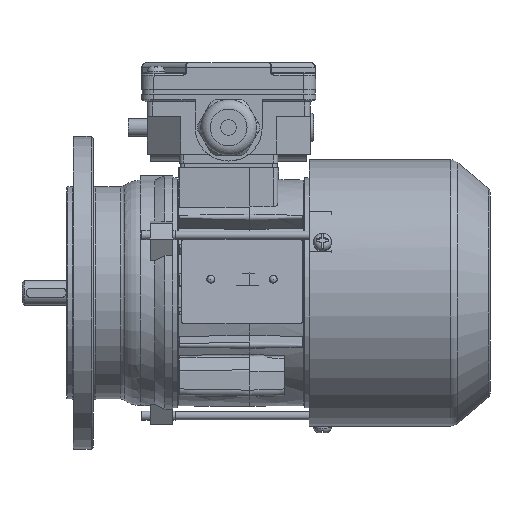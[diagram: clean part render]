
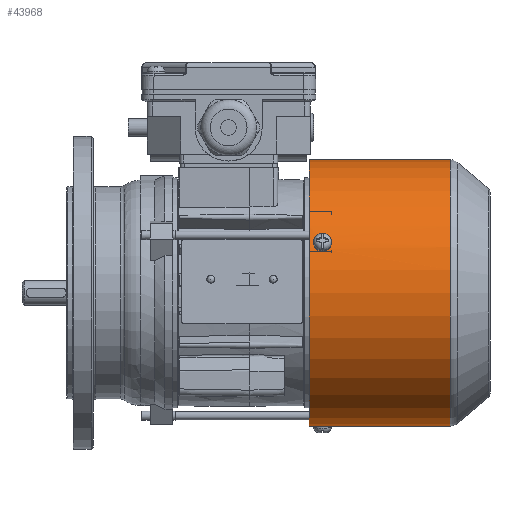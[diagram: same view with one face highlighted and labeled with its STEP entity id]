
A CAD part, front view. The second image highlights one B-rep face of the part: STEP entity #43968.
In plain terms, the highlighted cylindrical face has radius 59.6 mm (diameter 119.2 mm), a full revolution.
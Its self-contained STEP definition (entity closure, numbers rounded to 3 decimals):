
#663=B_SPLINE_CURVE_WITH_KNOTS('',3,(#58667,#58668,#58669,#58670,#58671,
#58672,#58673),.UNSPECIFIED.,.F.,.F.,(4,1,1,1,4),(0.,
0.002,0.004,0.006,0.007),
 .UNSPECIFIED.);
#664=B_SPLINE_CURVE_WITH_KNOTS('',3,(#58679,#58680,#58681,#58682,#58683,
#58684,#58685),.UNSPECIFIED.,.F.,.F.,(4,1,1,1,4),(0.,
0.002,0.004,0.006,0.007),
 .UNSPECIFIED.);
#665=B_SPLINE_CURVE_WITH_KNOTS('',3,(#58718,#58719,#58720,#58721,#58722,
#58723,#58724),.UNSPECIFIED.,.F.,.F.,(4,1,1,1,4),(0.,0.002,
0.004,0.006,0.008),
 .UNSPECIFIED.);
#666=B_SPLINE_CURVE_WITH_KNOTS('',3,(#58728,#58729,#58730,#58731,#58732,
#58733,#58734),.UNSPECIFIED.,.F.,.F.,(4,1,1,1,4),(0.,
0.002,0.004,0.006,0.008),
 .UNSPECIFIED.);
#667=B_SPLINE_CURVE_WITH_KNOTS('',3,(#58738,#58739,#58740,#58741,#58742,
#58743,#58744),.UNSPECIFIED.,.F.,.F.,(4,1,1,1,4),(0.,0.002,
0.004,0.006,0.008),
 .UNSPECIFIED.);
#668=B_SPLINE_CURVE_WITH_KNOTS('',3,(#58748,#58749,#58750,#58751,#58752,
#58753,#58754),.UNSPECIFIED.,.F.,.F.,(4,1,1,1,4),(0.,0.002,
0.004,0.006,0.008),
 .UNSPECIFIED.);
#1461=CYLINDRICAL_SURFACE('',#45858,59.6);
#7187=ORIENTED_EDGE('',*,*,#16592,.T.);
#7188=ORIENTED_EDGE('',*,*,#16593,.T.);
#7189=ORIENTED_EDGE('',*,*,#16594,.T.);
#7190=ORIENTED_EDGE('',*,*,#16595,.T.);
#7191=ORIENTED_EDGE('',*,*,#16575,.F.);
#7192=ORIENTED_EDGE('',*,*,#16578,.F.);
#7193=ORIENTED_EDGE('',*,*,#16596,.T.);
#7194=ORIENTED_EDGE('',*,*,#16597,.T.);
#7195=ORIENTED_EDGE('',*,*,#16598,.T.);
#7196=ORIENTED_EDGE('',*,*,#16599,.T.);
#7197=ORIENTED_EDGE('',*,*,#16600,.F.);
#7198=ORIENTED_EDGE('',*,*,#16601,.T.);
#16575=EDGE_CURVE('',#21312,#21313,#663,.T.);
#16578=EDGE_CURVE('',#21313,#21312,#664,.T.);
#16592=EDGE_CURVE('',#21328,#21329,#24441,.F.);
#16593=EDGE_CURVE('',#21329,#21330,#665,.T.);
#16594=EDGE_CURVE('',#21330,#21331,#24442,.F.);
#16595=EDGE_CURVE('',#21331,#21328,#666,.T.);
#16596=EDGE_CURVE('',#21332,#21333,#24443,.F.);
#16597=EDGE_CURVE('',#21333,#21334,#667,.T.);
#16598=EDGE_CURVE('',#21334,#21335,#24444,.F.);
#16599=EDGE_CURVE('',#21335,#21332,#668,.T.);
#16600=EDGE_CURVE('',#21336,#21336,#24445,.T.);
#16601=EDGE_CURVE('',#21337,#21337,#24446,.F.);
#21312=VERTEX_POINT('',#58665);
#21313=VERTEX_POINT('',#58666);
#21328=VERTEX_POINT('',#58716);
#21329=VERTEX_POINT('',#58717);
#21330=VERTEX_POINT('',#58725);
#21331=VERTEX_POINT('',#58727);
#21332=VERTEX_POINT('',#58736);
#21333=VERTEX_POINT('',#58737);
#21334=VERTEX_POINT('',#58745);
#21335=VERTEX_POINT('',#58747);
#21336=VERTEX_POINT('',#58756);
#21337=VERTEX_POINT('',#58758);
#24441=CIRCLE('',#45859,59.6);
#24442=CIRCLE('',#45860,59.6);
#24443=CIRCLE('',#45861,59.6);
#24444=CIRCLE('',#45862,59.6);
#24445=CIRCLE('',#45863,59.6);
#24446=CIRCLE('',#45864,59.6);
#25815=EDGE_LOOP('',(#7187,#7188,#7189,#7190));
#25816=EDGE_LOOP('',(#7191,#7192));
#25817=EDGE_LOOP('',(#7193,#7194,#7195,#7196));
#25818=EDGE_LOOP('',(#7197));
#25819=EDGE_LOOP('',(#7198));
#28027=FACE_BOUND('',#25815,.T.);
#28028=FACE_BOUND('',#25816,.T.);
#28029=FACE_BOUND('',#25817,.T.);
#28030=FACE_BOUND('',#25818,.T.);
#28031=FACE_BOUND('',#25819,.T.);
#43968=ADVANCED_FACE('',(#28027,#28028,#28029,#28030,#28031),#1461,.T.);
#45858=AXIS2_PLACEMENT_3D('',#58714,#49447,#49448);
#45859=AXIS2_PLACEMENT_3D('',#58715,#49449,#49450);
#45860=AXIS2_PLACEMENT_3D('',#58726,#49451,#49452);
#45861=AXIS2_PLACEMENT_3D('',#58735,#49453,#49454);
#45862=AXIS2_PLACEMENT_3D('',#58746,#49455,#49456);
#45863=AXIS2_PLACEMENT_3D('',#58755,#49457,#49458);
#45864=AXIS2_PLACEMENT_3D('',#58757,#49459,#49460);
#49447=DIRECTION('',(-1.,0.,0.));
#49448=DIRECTION('',(0.,0.,1.));
#49449=DIRECTION('',(-1.,0.,0.));
#49450=DIRECTION('',(0.,0.866,-0.5));
#49451=DIRECTION('',(1.,0.,0.));
#49452=DIRECTION('',(0.,-0.866,0.5));
#49453=DIRECTION('',(-1.,0.,0.));
#49454=DIRECTION('',(0.,0.,1.));
#49455=DIRECTION('',(1.,0.,0.));
#49456=DIRECTION('',(0.,0.,-1.));
#49457=DIRECTION('',(-1.,0.,0.));
#49458=DIRECTION('',(0.,0.,1.));
#49459=DIRECTION('',(1.,0.,0.));
#49460=DIRECTION('',(0.,0.,-1.));
#58665=CARTESIAN_POINT('',(35.,8.295,-59.02));
#58666=CARTESIAN_POINT('',(30.,8.295,-59.02));
#58667=CARTESIAN_POINT('',(35.,8.295,-59.02));
#58668=CARTESIAN_POINT('',(34.937,7.681,-59.106));
#58669=CARTESIAN_POINT('',(34.356,6.499,-59.249));
#58670=CARTESIAN_POINT('',(32.502,5.777,-59.318));
#58671=CARTESIAN_POINT('',(30.649,6.493,-59.25));
#58672=CARTESIAN_POINT('',(30.063,7.681,-59.106));
#58673=CARTESIAN_POINT('',(30.,8.295,-59.02));
#58679=CARTESIAN_POINT('',(30.,8.295,-59.02));
#58680=CARTESIAN_POINT('',(30.063,8.908,-58.934));
#58681=CARTESIAN_POINT('',(30.644,10.084,-58.746));
#58682=CARTESIAN_POINT('',(32.498,10.797,-58.613));
#58683=CARTESIAN_POINT('',(34.351,10.09,-58.745));
#58684=CARTESIAN_POINT('',(34.937,8.908,-58.934));
#58685=CARTESIAN_POINT('',(35.,8.295,-59.02));
#58714=CARTESIAN_POINT('',(-33.5,0.,0.));
#58715=CARTESIAN_POINT('',(35.,0.,0.));
#58716=CARTESIAN_POINT('',(35.,47.484,36.02));
#58717=CARTESIAN_POINT('',(35.,46.437,37.36));
#58718=CARTESIAN_POINT('',(35.,46.437,37.36));
#58719=CARTESIAN_POINT('',(35.,46.023,37.874));
#58720=CARTESIAN_POINT('',(34.458,45.191,38.867));
#58721=CARTESIAN_POINT('',(32.502,44.648,39.479));
#58722=CARTESIAN_POINT('',(30.542,45.19,38.869));
#58723=CARTESIAN_POINT('',(30.,46.023,37.874));
#58724=CARTESIAN_POINT('',(30.,46.437,37.36));
#58725=CARTESIAN_POINT('',(30.,46.437,37.36));
#58726=CARTESIAN_POINT('',(30.,0.,0.));
#58727=CARTESIAN_POINT('',(30.,47.484,36.02));
#58728=CARTESIAN_POINT('',(30.,47.484,36.02));
#58729=CARTESIAN_POINT('',(30.,47.883,35.493));
#58730=CARTESIAN_POINT('',(30.542,48.645,34.446));
#58731=CARTESIAN_POINT('',(32.498,49.108,33.771));
#58732=CARTESIAN_POINT('',(34.458,48.646,34.444));
#58733=CARTESIAN_POINT('',(35.,47.883,35.493));
#58734=CARTESIAN_POINT('',(35.,47.484,36.02));
#58735=CARTESIAN_POINT('',(35.,0.,0.));
#58736=CARTESIAN_POINT('',(35.,-54.936,23.112));
#58737=CARTESIAN_POINT('',(35.,-55.573,21.536));
#58738=CARTESIAN_POINT('',(35.,-55.573,21.536));
#58739=CARTESIAN_POINT('',(35.,-55.812,20.92));
#58740=CARTESIAN_POINT('',(34.458,-56.255,19.703));
#58741=CARTESIAN_POINT('',(32.502,-56.514,18.927));
#58742=CARTESIAN_POINT('',(30.542,-56.256,19.701));
#58743=CARTESIAN_POINT('',(30.,-55.812,20.92));
#58744=CARTESIAN_POINT('',(30.,-55.573,21.536));
#58745=CARTESIAN_POINT('',(30.,-55.573,21.536));
#58746=CARTESIAN_POINT('',(30.,0.,0.));
#58747=CARTESIAN_POINT('',(30.,-54.936,23.112));
#58748=CARTESIAN_POINT('',(30.,-54.936,23.112));
#58749=CARTESIAN_POINT('',(30.,-54.68,23.721));
#58750=CARTESIAN_POINT('',(30.542,-54.154,24.905));
#58751=CARTESIAN_POINT('',(32.498,-53.8,25.643));
#58752=CARTESIAN_POINT('',(34.458,-54.153,24.907));
#58753=CARTESIAN_POINT('',(35.,-54.68,23.721));
#58754=CARTESIAN_POINT('',(35.,-54.936,23.112));
#58755=CARTESIAN_POINT('',(26.5,0.,0.));
#58756=CARTESIAN_POINT('',(26.5,0.,59.6));
#58757=CARTESIAN_POINT('',(89.809,0.,0.));
#58758=CARTESIAN_POINT('',(89.809,0.,-59.6));
